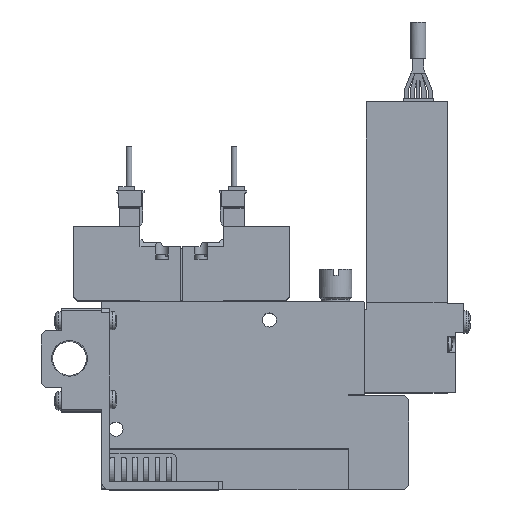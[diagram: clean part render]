
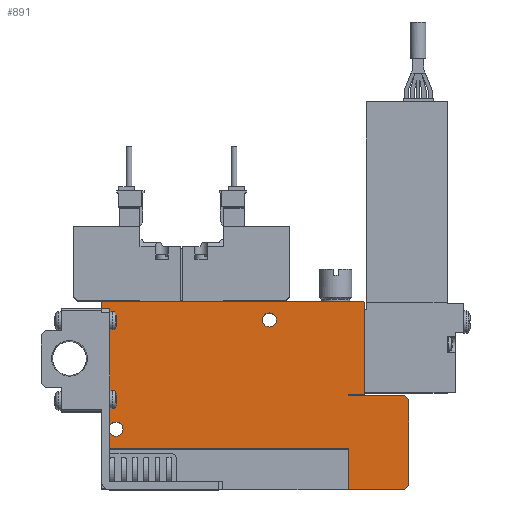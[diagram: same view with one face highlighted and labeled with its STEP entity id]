
A CAD part, top view. The second image highlights one B-rep face of the part: STEP entity #891.
In plain terms, the highlighted planar face has unit normal (0, 0, 1).
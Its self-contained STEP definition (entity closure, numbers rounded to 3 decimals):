
#891=ADVANCED_FACE('',(#2113,#2114,#2115),#2116,.F.);
#2113=FACE_OUTER_BOUND('',#3678,.T.);
#2114=FACE_BOUND('',#3679,.T.);
#2115=FACE_BOUND('',#3680,.T.);
#2116=PLANE('',#3681);
#3678=EDGE_LOOP('',(#8076,#8077,#8078,#8079,#8080,#8081,#8082,#8083,#8084,#8085,#8086,#8087,#8088,#8089));
#3679=EDGE_LOOP('',(#8090));
#3680=EDGE_LOOP('',(#8091));
#3681=AXIS2_PLACEMENT_3D('',#8092,#8093,#8094);
#8076=ORIENTED_EDGE('',*,*,#11121,.T.);
#8077=ORIENTED_EDGE('',*,*,#10804,.F.);
#8078=ORIENTED_EDGE('',*,*,#11111,.F.);
#8079=ORIENTED_EDGE('',*,*,#11050,.T.);
#8080=ORIENTED_EDGE('',*,*,#11072,.T.);
#8081=ORIENTED_EDGE('',*,*,#10960,.T.);
#8082=ORIENTED_EDGE('',*,*,#10853,.T.);
#8083=ORIENTED_EDGE('',*,*,#10850,.T.);
#8084=ORIENTED_EDGE('',*,*,#10857,.T.);
#8085=ORIENTED_EDGE('',*,*,#11122,.T.);
#8086=ORIENTED_EDGE('',*,*,#11087,.T.);
#8087=ORIENTED_EDGE('',*,*,#11084,.T.);
#8088=ORIENTED_EDGE('',*,*,#11120,.T.);
#8089=ORIENTED_EDGE('',*,*,#11117,.T.);
#8090=ORIENTED_EDGE('',*,*,#11019,.F.);
#8091=ORIENTED_EDGE('',*,*,#10921,.F.);
#8092=CARTESIAN_POINT('',(0.0,0.0,5.0));
#8093=DIRECTION('',(0.0,0.0,-1.0));
#8094=DIRECTION('',(0.0,-1.0,0.0));
#10804=EDGE_CURVE('',#13212,#13213,#13214,.T.);
#10850=EDGE_CURVE('',#13300,#13298,#13301,.T.);
#10853=EDGE_CURVE('',#13305,#13300,#13306,.T.);
#10857=EDGE_CURVE('',#13298,#13310,#13312,.T.);
#10921=EDGE_CURVE('',#13423,#13423,#13424,.T.);
#10960=EDGE_CURVE('',#13488,#13305,#13489,.T.);
#11019=EDGE_CURVE('',#13588,#13588,#13589,.T.);
#11050=EDGE_CURVE('',#13629,#13633,#13635,.T.);
#11072=EDGE_CURVE('',#13633,#13488,#13665,.T.);
#11084=EDGE_CURVE('',#13684,#13682,#13685,.T.);
#11087=EDGE_CURVE('',#13689,#13684,#13690,.T.);
#11111=EDGE_CURVE('',#13629,#13212,#13721,.T.);
#11117=EDGE_CURVE('',#13728,#13726,#13729,.T.);
#11120=EDGE_CURVE('',#13682,#13728,#13732,.T.);
#11121=EDGE_CURVE('',#13726,#13213,#13733,.T.);
#11122=EDGE_CURVE('',#13310,#13689,#13734,.T.);
#13212=VERTEX_POINT('',#17227);
#13213=VERTEX_POINT('',#17228);
#13214=LINE('',#17229,#17230);
#13298=VERTEX_POINT('',#17383);
#13300=VERTEX_POINT('',#17386);
#13301=LINE('',#17387,#17388);
#13305=VERTEX_POINT('',#17394);
#13306=LINE('',#17395,#17396);
#13310=VERTEX_POINT('',#17402);
#13312=LINE('',#17405,#17406);
#13423=VERTEX_POINT('',#17590);
#13424=CIRCLE('',#17591,1.75);
#13488=VERTEX_POINT('',#17710);
#13489=LINE('',#17711,#17712);
#13588=VERTEX_POINT('',#17863);
#13589=CIRCLE('',#17864,1.75);
#13629=VERTEX_POINT('',#17941);
#13633=VERTEX_POINT('',#17947);
#13635=LINE('',#17950,#17951);
#13665=LINE('',#17998,#17999);
#13682=VERTEX_POINT('',#18026);
#13684=VERTEX_POINT('',#18029);
#13685=LINE('',#18030,#18031);
#13689=VERTEX_POINT('',#18037);
#13690=LINE('',#18038,#18039);
#13721=LINE('',#18088,#18089);
#13726=VERTEX_POINT('',#18098);
#13728=VERTEX_POINT('',#18101);
#13729=LINE('',#18102,#18103);
#13732=LINE('',#18108,#18109);
#13733=LINE('',#18110,#18111);
#13734=LINE('',#18112,#18113);
#17227=CARTESIAN_POINT('',(61.1,10.1,5.0));
#17228=CARTESIAN_POINT('',(0.0,10.1,5.0));
#17229=CARTESIAN_POINT('',(61.1,10.1,5.0));
#17230=VECTOR('',#21188,1.0);
#17383=CARTESIAN_POINT('',(61.0,23.25,5.0));
#17386=CARTESIAN_POINT('',(75.0,23.25,5.0));
#17387=CARTESIAN_POINT('',(75.0,23.25,5.0));
#17388=VECTOR('',#21248,1.0);
#17394=CARTESIAN_POINT('',(76.0,22.25,5.0));
#17395=CARTESIAN_POINT('',(76.0,22.25,5.0));
#17396=VECTOR('',#21251,1.0);
#17402=CARTESIAN_POINT('',(61.0,23.5,5.0));
#17405=CARTESIAN_POINT('',(61.0,23.25,5.0));
#17406=VECTOR('',#21255,1.0);
#17590=CARTESIAN_POINT('',(43.25,42.0,5.0));
#17591=AXIS2_PLACEMENT_3D('',#21346,#21347,#21348);
#17710=CARTESIAN_POINT('',(76.0,1.0,5.0));
#17711=CARTESIAN_POINT('',(76.0,1.0,5.0));
#17712=VECTOR('',#21404,1.0);
#17863=CARTESIAN_POINT('',(5.25,15.0,5.0));
#17864=AXIS2_PLACEMENT_3D('',#21475,#21476,#21477);
#17941=CARTESIAN_POINT('',(61.1,0.0,5.0));
#17947=CARTESIAN_POINT('',(75.0,0.0,5.0));
#17950=CARTESIAN_POINT('',(0.0,0.0,5.0));
#17951=VECTOR('',#21520,1.0);
#17998=CARTESIAN_POINT('',(75.0,0.0,5.0));
#17999=VECTOR('',#21550,1.0);
#18026=CARTESIAN_POINT('',(64.8,46.6,5.0));
#18029=CARTESIAN_POINT('',(65.0,46.4,5.0));
#18030=CARTESIAN_POINT('',(65.0,46.4,5.0));
#18031=VECTOR('',#21562,1.0);
#18037=CARTESIAN_POINT('',(65.0,23.5,5.0));
#18038=CARTESIAN_POINT('',(65.0,23.5,5.0));
#18039=VECTOR('',#21565,1.0);
#18088=CARTESIAN_POINT('',(61.1,0.0,5.0));
#18089=VECTOR('',#21599,1.0);
#18098=CARTESIAN_POINT('',(0.0,46.4,5.0));
#18101=CARTESIAN_POINT('',(0.2,46.6,5.0));
#18102=CARTESIAN_POINT('',(0.2,46.6,5.0));
#18103=VECTOR('',#21605,1.0);
#18108=CARTESIAN_POINT('',(64.8,46.6,5.0));
#18109=VECTOR('',#21608,1.0);
#18110=CARTESIAN_POINT('',(0.0,46.4,5.0));
#18111=VECTOR('',#21609,1.0);
#18112=CARTESIAN_POINT('',(61.0,23.5,5.0));
#18113=VECTOR('',#21610,1.0);
#21188=DIRECTION('',(-1.0,0.0,0.0));
#21248=DIRECTION('',(-1.0,0.0,0.0));
#21251=DIRECTION('',(-0.707,0.707,0.0));
#21255=DIRECTION('',(0.0,1.0,0.0));
#21346=CARTESIAN_POINT('',(41.5,42.0,5.0));
#21347=DIRECTION('',(0.0,0.0,1.0));
#21348=DIRECTION('',(1.0,0.0,0.0));
#21404=DIRECTION('',(0.0,1.0,0.0));
#21475=CARTESIAN_POINT('',(3.5,15.0,5.0));
#21476=DIRECTION('',(0.0,0.0,1.0));
#21477=DIRECTION('',(1.0,0.0,0.0));
#21520=DIRECTION('',(1.0,0.0,0.0));
#21550=DIRECTION('',(0.707,0.707,0.0));
#21562=DIRECTION('',(-0.707,0.707,0.0));
#21565=DIRECTION('',(0.0,1.0,0.0));
#21599=DIRECTION('',(0.0,1.0,0.0));
#21605=DIRECTION('',(-0.707,-0.707,0.0));
#21608=DIRECTION('',(-1.0,0.0,0.0));
#21609=DIRECTION('',(0.0,-1.0,0.0));
#21610=DIRECTION('',(1.0,0.,0.0));
